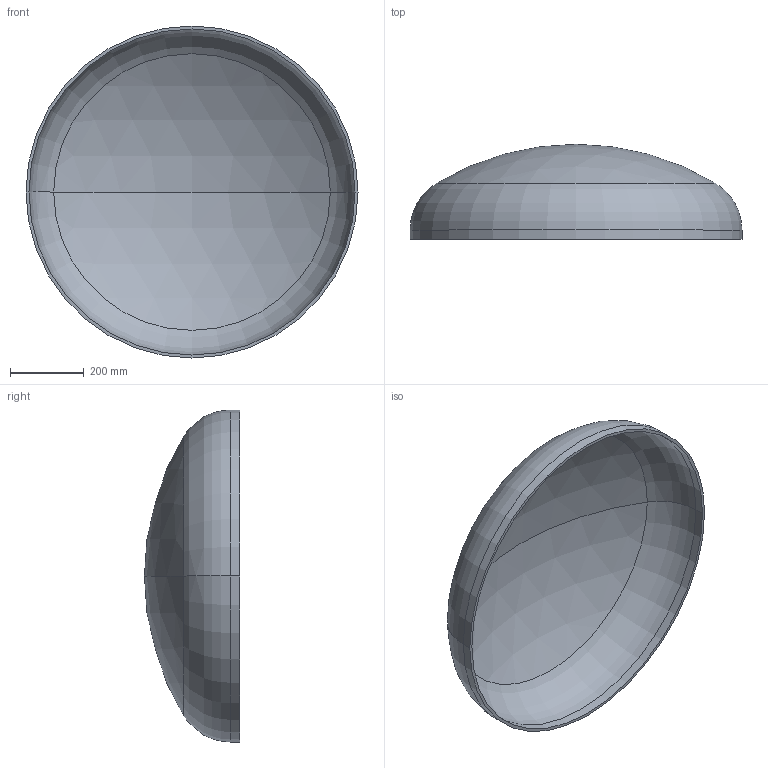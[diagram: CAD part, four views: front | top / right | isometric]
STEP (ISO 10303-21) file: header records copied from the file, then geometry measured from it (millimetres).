
FILE_DESCRIPTION (( 'STEP AP203' ), '1' );
FILE_NAME ('DIN 28013 Korbbogenform_-_Boden DIN 28013 - 900 x 25 - I - s=8.step', '2016-07-01T08:25:12', ( '' ), ( '' ), 'SwSTEP 2.0', 'SolidWorks 2013', '' );
FILE_SCHEMA (( 'CONFIG_CONTROL_DESIGN' ));
Length unit declared in the file: millimetre
Products named in the file (1): DIN 28013 Korbbogenform_-_Boden DIN 28013 - 900 x 25 - I - s=8
Bounding box: 900 x 257.83 x 900 mm (x, y, z)
Volume: 7540605.3 mm3; surface area: 1907703.1 mm2
Topology: 1 solids, 1 shells, 13 faces, 24 edges, 14 vertices
Faces by surface type: torus 4, cylinder 4, sphere 4, plane 1
Entity records: 407 total; most frequent: DIRECTION 72, CARTESIAN_POINT 52, ORIENTED_EDGE 48, AXIS2_PLACEMENT_3D 34, EDGE_CURVE 24, CIRCLE 20, EDGE_LOOP 14, VERTEX_POINT 14
